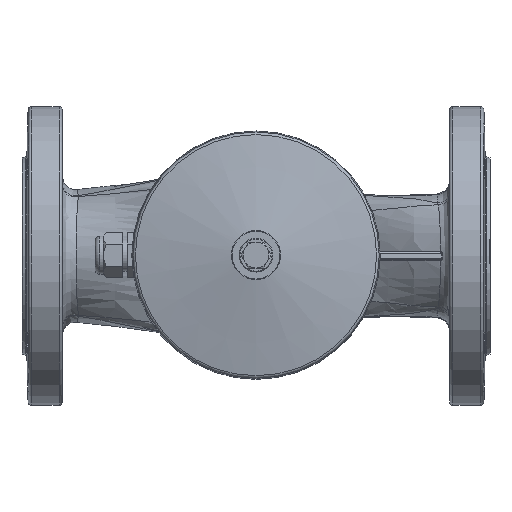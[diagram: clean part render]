
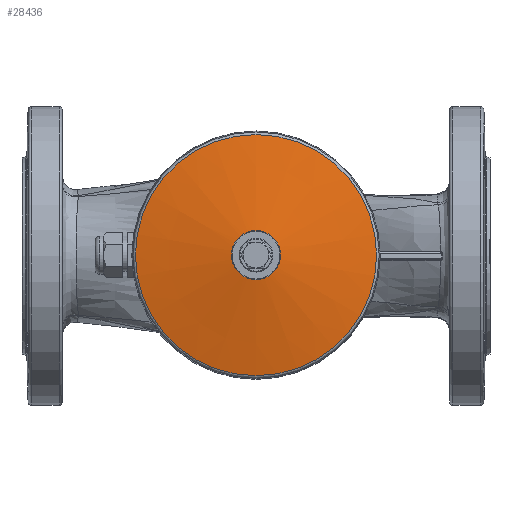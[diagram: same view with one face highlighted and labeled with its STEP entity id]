
A CAD part, top view. The second image highlights one B-rep face of the part: STEP entity #28436.
In plain terms, the highlighted conical face has half-angle 79.668 degrees and reference radius 45.577 mm.
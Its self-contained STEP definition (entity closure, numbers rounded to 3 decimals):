
#28374=CARTESIAN_POINT('',(0.,74.706,304.116));
#28375=VERTEX_POINT('',#28374);
#28376=CARTESIAN_POINT('',(0.,0.,304.116));
#28377=DIRECTION('',(0.0,0.0,-1.0));
#28378=DIRECTION('',(0.0,-1.0,0.0));
#28379=AXIS2_PLACEMENT_3D('',#28376,#28377,#28378);
#28380=CIRCLE('',#28379,74.706);
#28381=EDGE_CURVE('',#28375,#28375,#28380,.T.);
#28417=CARTESIAN_POINT('',(0.,0.,309.426));
#28418=DIRECTION('',(0.,0.,-1.0));
#28419=DIRECTION('',(0.0,1.0,0.0));
#28420=AXIS2_PLACEMENT_3D('',#28417,#28418,#28419);
#28421=CONICAL_SURFACE('',#28420,45.576,79.668);
#28422=ORIENTED_EDGE('',*,*,#28381,.F.);
#28423=EDGE_LOOP('',(#28422));
#28424=FACE_OUTER_BOUND('',#28423,.T.);
#28425=CARTESIAN_POINT('',(0.,15.178,314.968));
#28426=VERTEX_POINT('',#28425);
#28427=CARTESIAN_POINT('',(0.,0.,314.968));
#28428=DIRECTION('',(0.0,0.0,1.0));
#28429=DIRECTION('',(0.0,-1.0,0.0));
#28430=AXIS2_PLACEMENT_3D('',#28427,#28428,#28429);
#28431=CIRCLE('',#28430,15.178);
#28432=EDGE_CURVE('',#28426,#28426,#28431,.T.);
#28433=ORIENTED_EDGE('',*,*,#28432,.F.);
#28434=EDGE_LOOP('',(#28433));
#28435=FACE_BOUND('',#28434,.T.);
#28436=ADVANCED_FACE('',(#28424,#28435),#28421,.T.);
